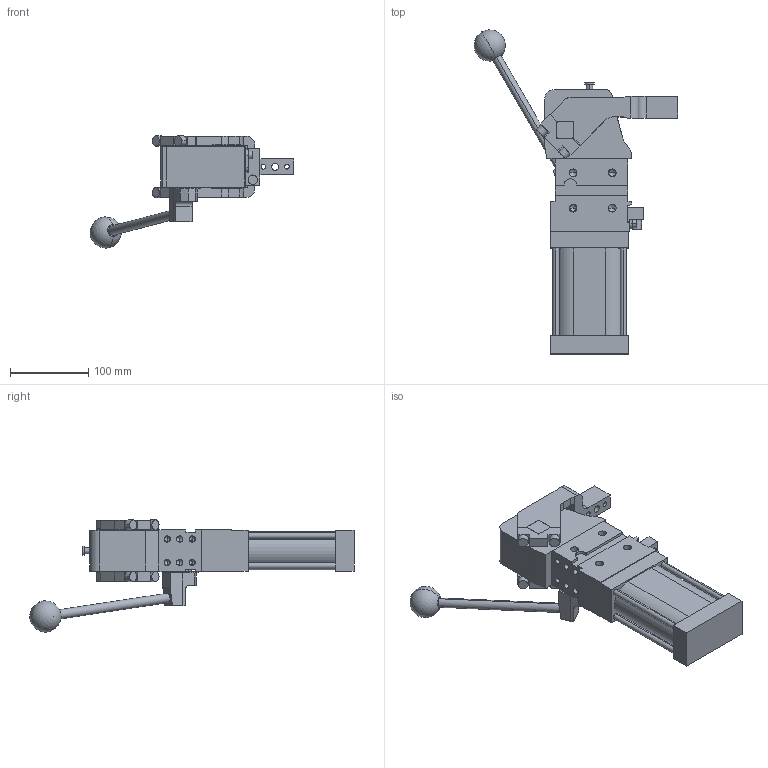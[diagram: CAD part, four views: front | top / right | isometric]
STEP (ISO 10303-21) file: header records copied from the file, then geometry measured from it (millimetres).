
FILE_DESCRIPTION (( 'STEP AP214' ), '1' );
FILE_NAME ('cplm63lbv1csi1g_16.STEP', '2023-01-26T14:33:09', ( '' ), ( '' ), 'SwSTEP 2.0', 'SolidWorks 2022', '' );
FILE_SCHEMA (( 'AUTOMOTIVE_DESIGN' ));
Length unit declared in the file: millimetre
Products named in the file (5): comando_manuale_cplm_63; blocchetto_VEP_0; meccanica_cplm_63; cplm63lbv1csi1g_16; leva_cx_offset_15_cpl63
Assembly tree (4 placements, depth 2):
  cplm63lbv1csi1g_16
    meccanica_cplm_63
    blocchetto_VEP_0
    leva_cx_offset_15_cpl63
    comando_manuale_cplm_63
Bounding box: 260.54 x 414.46 x 143.5 mm (x, y, z)
Volume: 1858154.9 mm3; surface area: 205684.9 mm2
Topology: 4 solids, 4 shells, 430 faces, 1128 edges, 699 vertices
Faces by surface type: plane 217, cylinder 161, cone 50, sphere 2
Entity records: 14525 total; most frequent: DIRECTION 2307, CARTESIAN_POINT 2294, ORIENTED_EDGE 2154, EDGE_CURVE 1077, AXIS2_PLACEMENT_3D 799, LINE 709, VECTOR 709, VERTEX_POINT 696
